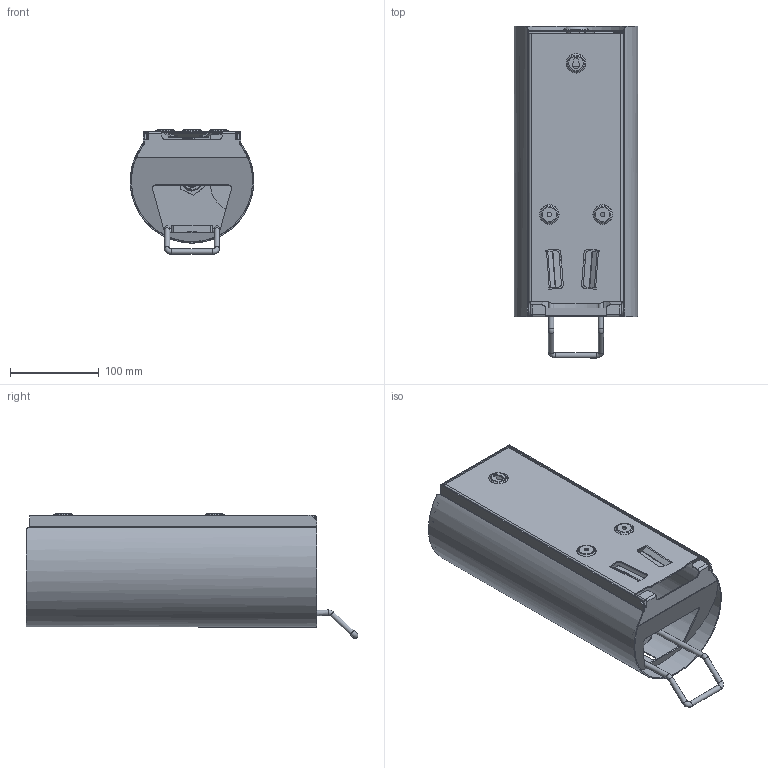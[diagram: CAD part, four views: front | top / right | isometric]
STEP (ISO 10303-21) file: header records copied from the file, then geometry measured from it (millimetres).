
FILE_DESCRIPTION(/* description */ ('Plate for wall fixture'),/* implementation_level */ '2;1');
FILE_NAME(/* name */ 'X:\Udviklingsprojekter\Björk\DD-260218-xxx Björk sæbedispenser manuel\Public\DD-260218-010.stp',/* time_stamp */ '2019-03-21T19:45:32+01:00',/* author */ ('Dan Dryer'),/* organization */ (''),/* preprocessor_version */ 'ST-DEVELOPER v16.1',/* originating_system */ 'Autodesk Inventor 2016',/* authorisation */ '');
FILE_SCHEMA (('AUTOMOTIVE_DESIGN { 1 0 10303 214 3 1 1 }'));
Length unit declared in the file: millimetre
Products named in the file (21): DD-260218-063; DD-260218-064; DD-260218-065; 296-063; 296-062; DD-260218-060; DD-260218-122; DD-260218-121; DD-260218-124; DD-260218-125; DIN 934 - M4 x 0,7; DD-260218-132; DD-260218-120; DD-260218-130; 28200-1; 28201-3; 28200-2; 28200; 28201-2; 28201 uden fjederskive; DD-260218-010
Assembly tree (21 placements, depth 3):
  DD-260218-010
    DD-260218-060
      DD-260218-063
      DD-260218-064
      DD-260218-065
      296-063
      296-062
    DD-260218-120
      DD-260218-122
      DD-260218-121
      DD-260218-124
      DD-260218-125
      DIN 934 - M4 x 0,7  x2
      DD-260218-132
    DD-260218-130
    28200
      28200-2
      28200-1
    28201 uden fjederskive
      28201-2
      28201-3
Bounding box: 138.95 x 373.15 x 140.19 mm (x, y, z)
Volume: 256822.2 mm3; surface area: 387295.6 mm2
Topology: 17 solids, 19 shells, 726 faces, 1752 edges, 1077 vertices
Faces by surface type: plane 395, cylinder 248, torus 30, bspline 25, cone 24, sphere 4
Full cylindrical faces by diameter (mm): 3 x6, 3.242 x2, 4.5 x2, 5 x2, 5.5 x2, 6 x8, 6.5 x2, 9.9 x1, 10 x1, 12.8 x1, 13.5 x1, 16 x1, 16.1 x1, 19.8 x1, 20 x1, 22 x1, 28 x1
Entity records: 22092 total; most frequent: CARTESIAN_POINT 4908, DIRECTION 3597, ORIENTED_EDGE 3277, EDGE_CURVE 1641, AXIS2_PLACEMENT_3D 1299, VERTEX_POINT 1044, LINE 999, VECTOR 999
